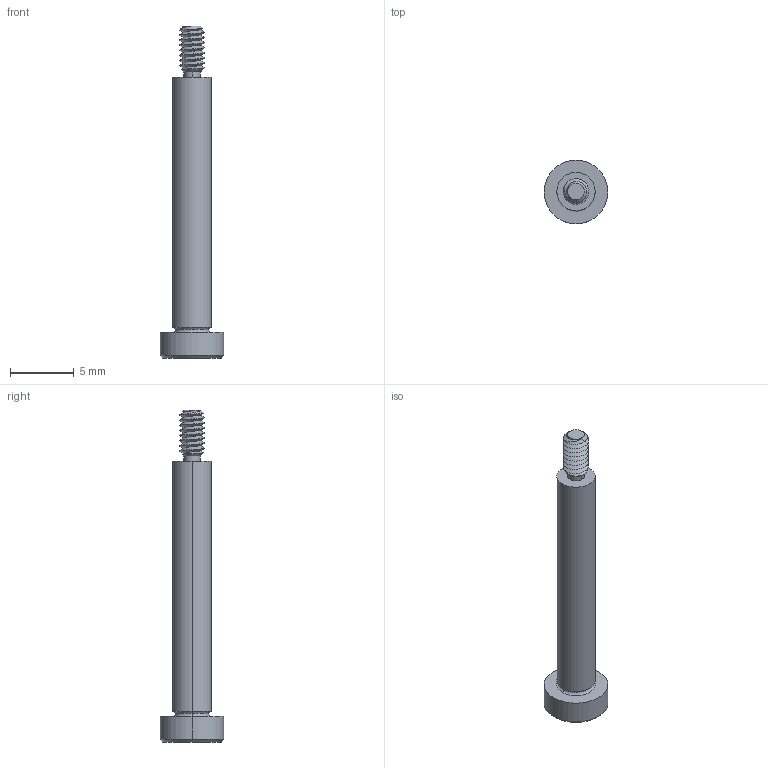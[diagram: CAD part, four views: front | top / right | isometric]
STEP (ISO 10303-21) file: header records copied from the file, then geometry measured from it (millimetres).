
FILE_DESCRIPTION (( 'STEP AP203' ), '1' );
FILE_NAME ('P0130.030-020-B2.step', '2021-11-09T20:58:34', ( '' ), ( '' ), 'SwSTEP 2.0', 'SolidWorks 2019', '' );
FILE_SCHEMA (( 'CONFIG_CONTROL_DESIGN' ));
Length unit declared in the file: millimetre
Products named in the file (1): P0130.030-020-B2
Bounding box: 5 x 5 x 26 mm (x, y, z)
Volume: 184.6 mm3; surface area: 304.6 mm2
Topology: 1 solids, 1 shells, 58 faces, 136 edges, 81 vertices
Faces by surface type: cylinder 22, plane 16, cone 14, torus 4, bspline 2
Entity records: 2452 total; most frequent: CARTESIAN_POINT 1166, ORIENTED_EDGE 268, DIRECTION 241, EDGE_CURVE 134, AXIS2_PLACEMENT_3D 97, VERTEX_POINT 81, EDGE_LOOP 61, FACE_OUTER_BOUND 58
